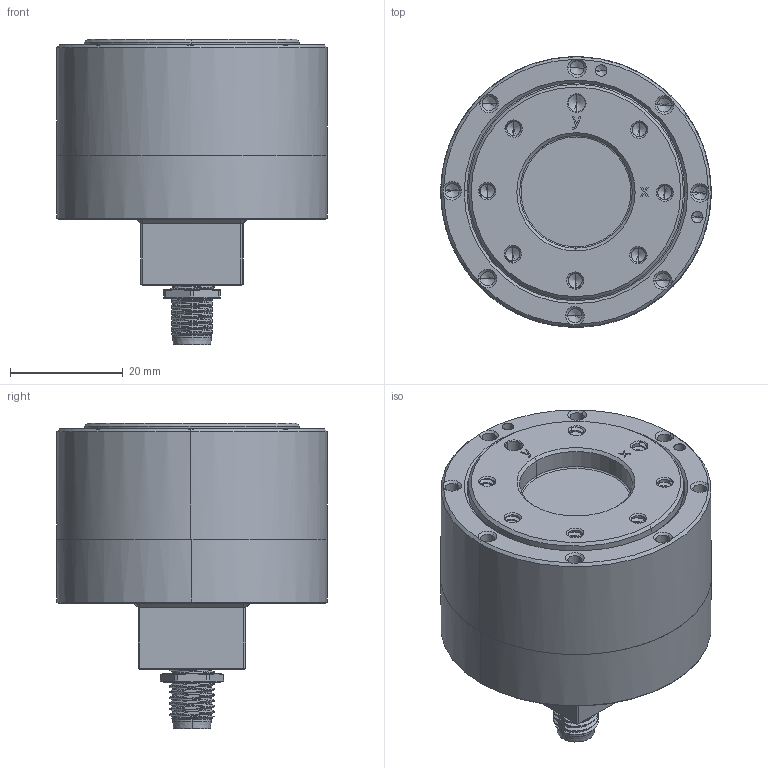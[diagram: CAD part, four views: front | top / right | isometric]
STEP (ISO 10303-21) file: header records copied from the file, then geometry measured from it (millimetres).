
FILE_DESCRIPTION (( 'STEP AP214' ), '1' );
FILE_NAME ('medusa-axial.STEP', '2021-05-12T07:37:30', ( '' ), ( '' ), 'SwSTEP 2.0', 'SolidWorks 2020', '' );
FILE_SCHEMA (( 'AUTOMOTIVE_DESIGN' ));
Length unit declared in the file: millimetre
Products named in the file (1): medusa-axial
Bounding box: 48.01 x 48.01 x 54.25 mm (x, y, z)
Surface area: 23084 mm2 (no closed solid volume)
Topology: 0 solids, 51 shells, 1951 faces, 4879 edges, 3017 vertices
Faces by surface type: plane 770, cylinder 687, cone 401, bspline 40, torus 36, sphere 17
Entity records: 87547 total; most frequent: CARTESIAN_POINT 19628, DIRECTION 9701, ORIENTED_EDGE 9536, EDGE_CURVE 4769, AXIS2_PLACEMENT_3D 3593, VERTEX_POINT 3016, VECTOR 2515, LINE 2515
